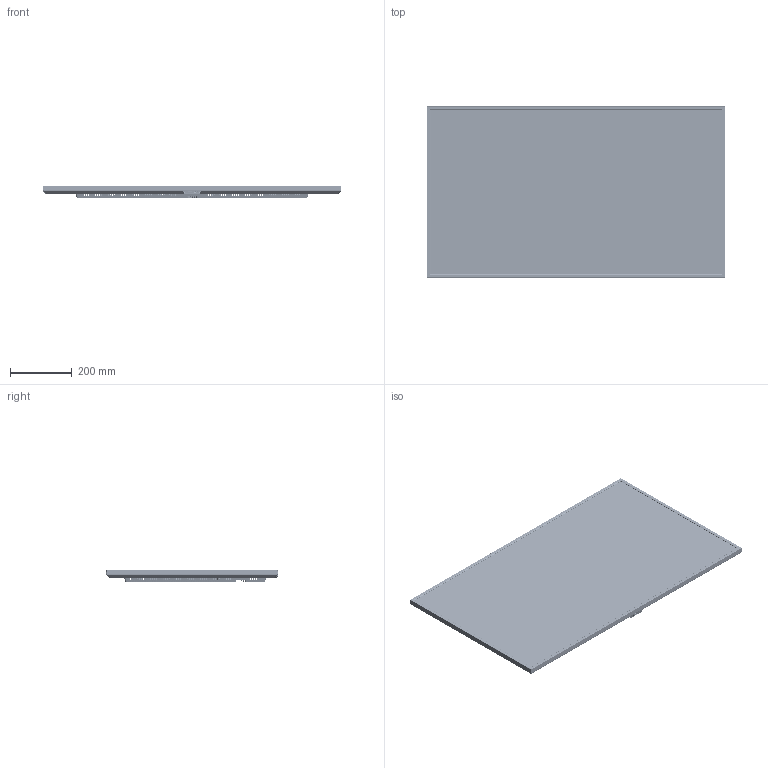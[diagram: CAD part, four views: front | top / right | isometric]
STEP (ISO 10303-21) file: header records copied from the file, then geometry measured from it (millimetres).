
FILE_DESCRIPTION((''),'2;1');
FILE_NAME('00-43DS60_ASM_2022_08_10_ASM','2023-03-01T',('zhangzhpei'),(''),'CREO PARAMETRIC BY PTC INC, 2014350','CREO PARAMETRIC BY PTC INC, 2014350','');
FILE_SCHEMA(('CONFIG_CONTROL_DESIGN'));
Products named in the file (30): AA_ST4251D01-7_9_1; CF_GLASS_ST4251D01-7_28_1; TFT_GLASS_ST4251D01-7_107_1; POL_CF_ST4251D01-7_37_1; AA_CUT_ST4251D01-7_20_1; POL_TFT_ST4251D01-7_23_1; ST4251D01-7_OPENCELL_ASM_141_AS_ASM; OPENCELL_SG4251D01-3_20211224_A_ASM; 02-OC_ASM_1_ASM; FC_55-799750-0HQG_1; 02-FC_ASM_1_ASM; 02-MBC_68-B79973-000_ASM_4_ASM; VESA-BRACKET_67-M79982-0G0_1; 01-LCM_ASM_1_ASM; ST-A03-002G9A-T54-F04F08_1; ODM-POWER_ASM_1_ASM; PCB_BOARD_1; PCB_MAIN-HDMI-IAF05_19613T1-CGE; PCB_MAIN-USB20_A_HOR_SOCKET-BK_; PCB_MAIN-PHONE_J-TSH3724D3_5_4P; PCB_ASSY_ASM_1_ASM; AV_SUPPORT_56-799790-0ULG_1; 01-SSB_ASM_1_ASM; BC_55-799740-0HLG_6; 01-BC_ASM_1_ASM; IR_SUPPORT_56-799800-0HAG_1; LENS_56-799810-0HHG_1; IR_ASSY_ASM_1_ASM; 00-43DS60_ASM_47_ASM; 00-43DS60_ASM_2022_08_10_ASM
Assembly tree (35 placements, depth 7):
  00-43DS60_ASM_2022_08_10_ASM
    00-43DS60_ASM_47_ASM
      01-LCM_ASM_1_ASM
        02-OC_ASM_1_ASM
          OPENCELL_SG4251D01-3_20211224_A_ASM
            ST4251D01-7_OPENCELL_ASM_141_AS_ASM
              AA_ST4251D01-7_9_1
              CF_GLASS_ST4251D01-7_28_1
              TFT_GLASS_ST4251D01-7_107_1
              POL_CF_ST4251D01-7_37_1
              AA_CUT_ST4251D01-7_20_1
              POL_TFT_ST4251D01-7_23_1
        02-FC_ASM_1_ASM
          FC_55-799750-0HQG_1
        02-MBC_68-B79973-000_ASM_4_ASM
        VESA-BRACKET_67-M79982-0G0_1  x4
      01-SSB_ASM_1_ASM
        ODM-POWER_ASM_1_ASM
          ST-A03-002G9A-T54-F04F08_1
        PCB_ASSY_ASM_1_ASM
          PCB_BOARD_1
          PCB_MAIN-HDMI-IAF05_19613T1-CGE  x3
          PCB_MAIN-USB20_A_HOR_SOCKET-BK_  x2
          PCB_MAIN-PHONE_J-TSH3724D3_5_4P
        AV_SUPPORT_56-799790-0ULG_1
      01-BC_ASM_1_ASM
        BC_55-799740-0HLG_6
      IR_ASSY_ASM_1_ASM
        IR_SUPPORT_56-799800-0HAG_1
        LENS_56-799810-0HHG_1
Bounding box: 967.36 x 555.89 x 40.02 mm (x, y, z)
Volume: 2194768.6 mm3; surface area: 5612919.9 mm2
Topology: 21 solids, 21 shells, 14675 faces, 42218 edges, 27021 vertices
Faces by surface type: plane 11179, cylinder 2987, bspline 277, torus 112, cone 56, extrusion 46, sphere 18
Entity records: 341695 total; most frequent: CARTESIAN_POINT 78555, ORIENTED_EDGE 58914, DIRECTION 48965, EDGE_CURVE 29457, VECTOR 22971, LINE 22925, VERTEX_POINT 18882, AXIS2_PLACEMENT_3D 12997
